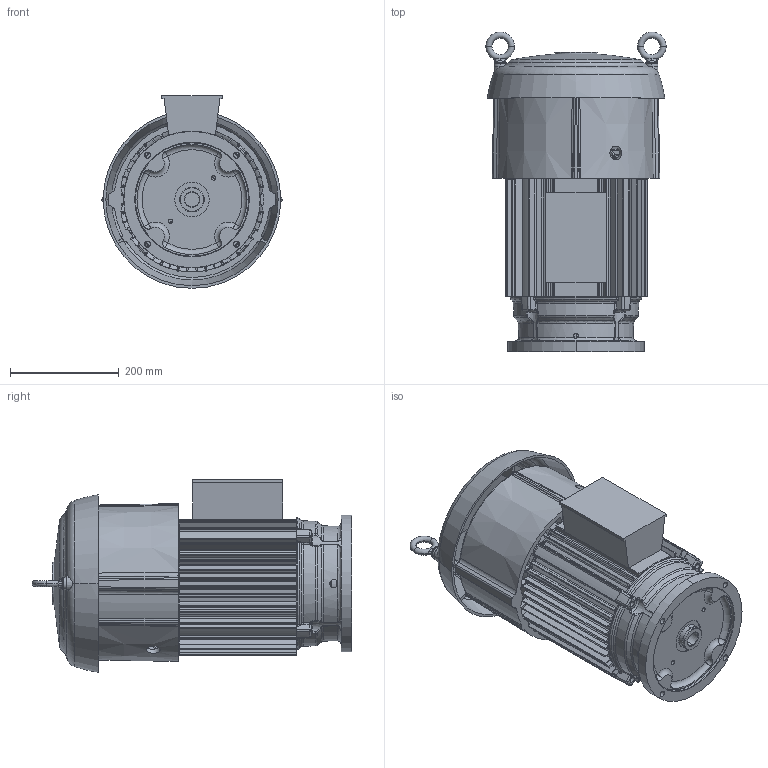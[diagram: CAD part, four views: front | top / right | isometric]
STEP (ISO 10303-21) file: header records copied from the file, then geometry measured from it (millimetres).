
FILE_DESCRIPTION((''),'2;1');
FILE_NAME('210TP_ASSY_ASM','2016-07-06T',('emd2341'),('Nidec Motor Corporation'),'PRO/ENGINEER BY PARAMETRIC TECHNOLOGY CORPORATION, 2013150','PRO/ENGINEER BY PARAMETRIC TECHNOLOGY CORPORATION, 2013150','');
FILE_SCHEMA(('CONFIG_CONTROL_DESIGN'));
Length unit declared in the file: inch
Products named in the file (9): 0744283; 0360246; 1001082; 0199540-CAP; 0367414; SHAFT; OBB; 0131400; 210TP_ASSY_ASM
Assembly tree (9 placements, depth 2):
  210TP_ASSY_ASM
    0744283
    0360246
    1001082
    0199540-CAP
    0367414
    SHAFT
    OBB
    0131400  x2
Bounding box: 331.98 x 588.72 x 354.91 mm (x, y, z)
Volume: 6750546.3 mm3; surface area: 1808545.2 mm2
Topology: 11 solids, 11 shells, 2306 faces, 5792 edges, 3453 vertices
Faces by surface type: bspline 982, cylinder 459, torus 293, plane 288, cone 186, sphere 74, extrusion 24
Entity records: 107703 total; most frequent: CARTESIAN_POINT 59317, ORIENTED_EDGE 11394, DIRECTION 8640, EDGE_CURVE 5697, AXIS2_PLACEMENT_3D 3705, VERTEX_POINT 3419, CIRCLE 2403, EDGE_LOOP 2378
